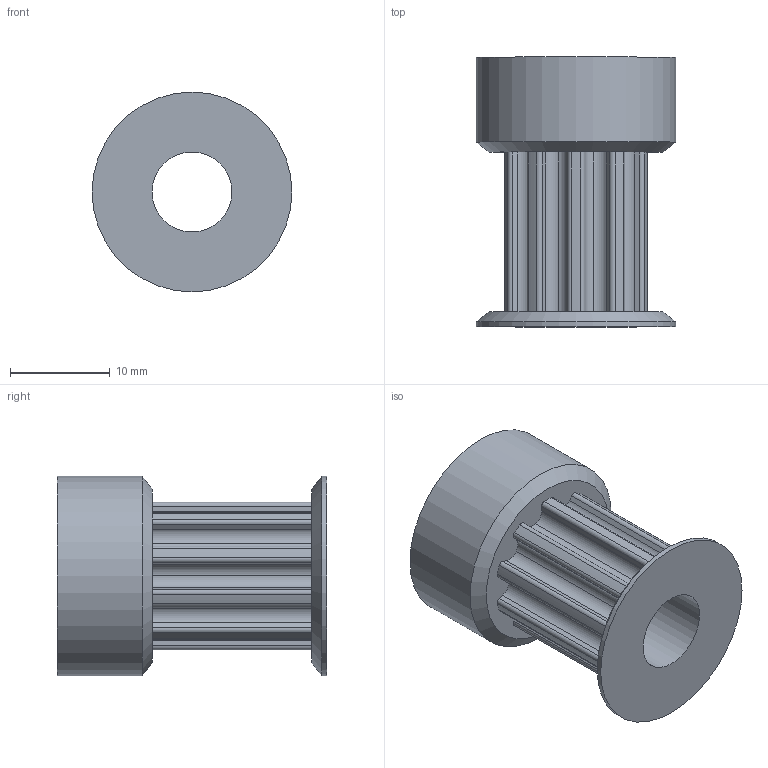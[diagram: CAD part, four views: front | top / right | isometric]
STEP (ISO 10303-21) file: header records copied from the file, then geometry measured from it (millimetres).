
FILE_DESCRIPTION(/* description */ ('www.motedis.com/part/TP-HTD5M-15-10T-8B','CAx-IF Rec.Pracs.---Representation and Presentation of Product Manufacturing Information (PMI)---4.0---2014-10-13'),/* implementation_level */ '2;1');
FILE_NAME(/* name */ 'Motedis TP-HTD5M-15-10T-8B.stp',/* time_stamp */ '2026-03-20T15:26:20+01:00',/* author */ ('Motedis'),/* organization */ ('Motedis GmbH'),/* preprocessor_version */ 'ST-DEVELOPER v20.1',/* originating_system */ 'Autodesk Inventor 2026',/* authorisation */ 'Motedis GmbH');
FILE_SCHEMA (('AP242_MANAGED_MODEL_BASED_3D_ENGINEERING_MIM_LF { 1 0 10303 442 2 1 4 }'));
Length unit declared in the file: millimetre
Products named in the file (1): Motedis TP-HTD5M-15-10T-8B
Bounding box: 20 x 27 x 20 mm (x, y, z)
Volume: 4112.9 mm3; surface area: 3203 mm2
Topology: 1 solids, 1 shells, 79 faces, 223 edges, 148 vertices
Faces by surface type: cylinder 53, plane 24, cone 2
Full cylindrical faces by diameter (mm): 8 x1, 20 x2
Entity records: 3554 total; most frequent: CARTESIAN_POINT 723, DIRECTION 623, ORIENTED_EDGE 446, AXIS2_PLACEMENT_3D 254, EDGE_CURVE 223, CIRCLE 158, VERTEX_POINT 148, STYLED_ITEM 124
